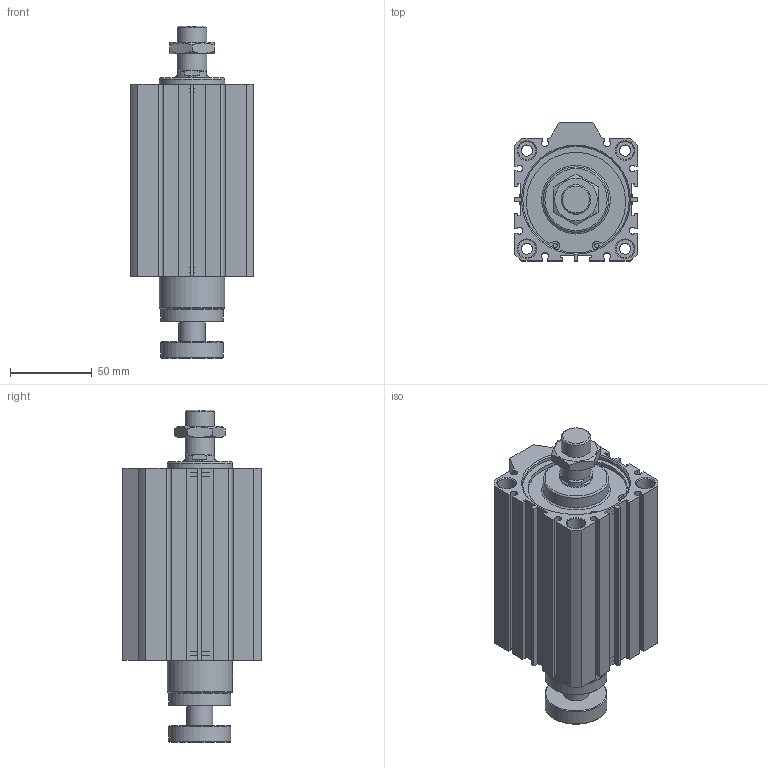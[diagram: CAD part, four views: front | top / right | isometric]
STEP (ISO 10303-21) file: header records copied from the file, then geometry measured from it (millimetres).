
FILE_DESCRIPTION((''),'2;1');
FILE_NAME('I:\3D電子目錄\氣缸\JDAR\JDAR-BS\JDAR63-BS\JDAR63x75-BS.stp','2007-05-05T14:39:28',('662F206'),(''),'Autodesk Inventor 11','Autodesk Inventor 11','');
FILE_SCHEMA(('AUTOMOTIVE_DESIGN { 1 0 10303 214 1 1 1 1 }'));
Length unit declared in the file: millimetre
Products named in the file (3): JDAR63-BS; R 形環 65
Assembly tree (3 placements, depth 2):
  JDAR63-BS
    JDAR63-BS
    R 形環 65  x2
Bounding box: 75 x 84.5 x 202.8 mm (x, y, z)
Volume: 671443.2 mm3; surface area: 93493.7 mm2
Topology: 3 solids, 3 shells, 203 faces, 490 edges, 319 vertices
Faces by surface type: plane 118, cylinder 56, cone 25, bspline 2, torus 2
Full cylindrical faces by diameter (mm): 2.7 x4, 3 x2, 6.8 x4, 11 x8, 16 x1, 18 x2, 20 x1, 38 x2, 40 x2, 65 x4, 68 x2
Entity records: 5389 total; most frequent: CARTESIAN_POINT 1017, DIRECTION 902, ORIENTED_EDGE 798, EDGE_CURVE 399, AXIS2_PLACEMENT_3D 328, VERTEX_POINT 293, EDGE_LOOP 284, VECTOR 246
